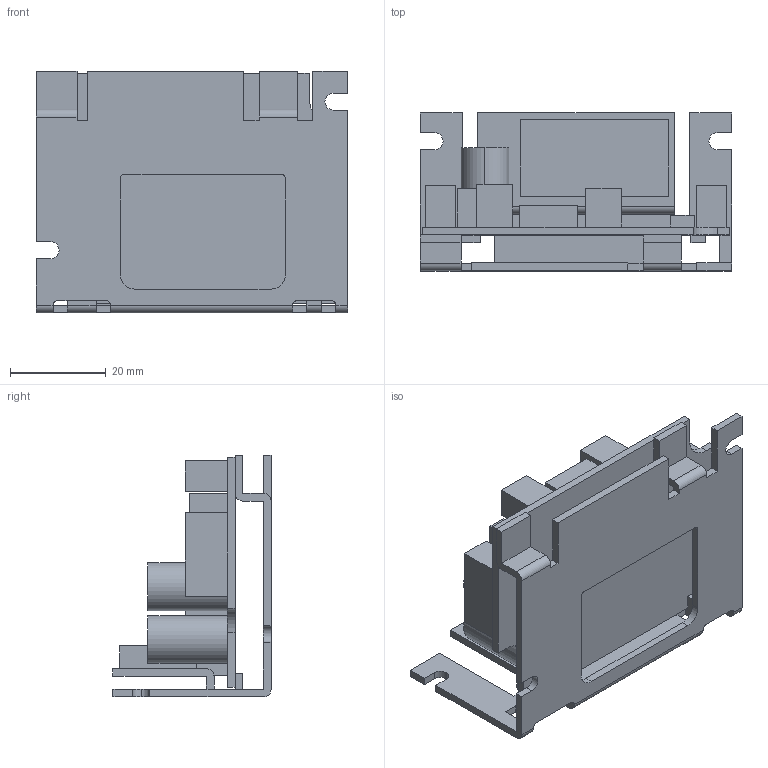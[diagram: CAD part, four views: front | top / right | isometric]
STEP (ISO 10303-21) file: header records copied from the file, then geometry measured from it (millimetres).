
FILE_DESCRIPTION (( 'STEP AP203' ), '1' );
FILE_NAME ('PDSB-UK.STEP', '2018-02-26T02:31:47', ( 'setup' ), ( 'Microsoft' ), 'SwSTEP 2.0', 'SolidWorks 2014', '' );
FILE_SCHEMA (( 'CONFIG_CONTROL_DESIGN' ));
Length unit declared in the file: millimetre
Products named in the file (1): PDSB-UK
Bounding box: 65 x 33 x 50.5 mm (x, y, z)
Volume: 20596.2 mm3; surface area: 19006.9 mm2
Topology: 1 solids, 1 shells, 163 faces, 464 edges, 304 vertices
Faces by surface type: plane 133, cylinder 30
Entity records: 5331 total; most frequent: CARTESIAN_POINT 932, ORIENTED_EDGE 928, DIRECTION 852, EDGE_CURVE 464, VECTOR 404, LINE 404, VERTEX_POINT 304, AXIS2_PLACEMENT_3D 224
